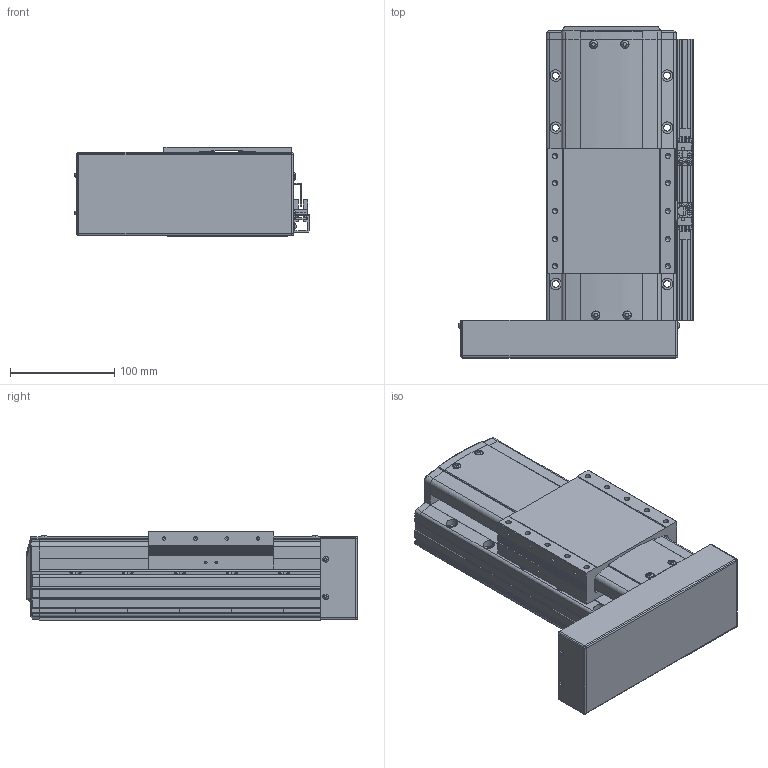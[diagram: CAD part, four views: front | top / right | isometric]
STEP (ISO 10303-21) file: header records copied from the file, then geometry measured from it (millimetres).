
FILE_DESCRIPTION(('STEP AP214'),'1');
FILE_NAME('Z:/Web/3D/PSA125/STP/PSA125-050 (3D)/PSA125ㅁㅁ-050PL+2SR.stp','2014-06-18T08:50:35',(' '),(' '),'Spatial InterOp 3D',' ',' ');
FILE_SCHEMA(('automotive_design'));
Length unit declared in the file: millimetre
Products named in the file (37): 스크루 : Round - M4.0 x 10.0; RRCV-PA120; SLIDE; BASE; FRCV-PA120-1(기준 뿔 제거); RR1500; 스크루 : Round - M4.0 x 6.0; 너트 : Square - M10.0 x 220.7419; BTCV - 60A; 스크루 : Round - M3.0 x 6.0; EE-SX674; SBK-SX674-352; M3.0 x 6.0; SRL-16x17-380L; SGD-PA95; 스크루 : Round - M3.0 x 8.0
Bounding box: 225.06 x 318.6 x 86 mm (x, y, z)
Volume: 3155806.5 mm3; surface area: 356443.4 mm2
Topology: 37 solids, 37 shells, 2236 faces, 5961 edges, 3832 vertices
Faces by surface type: plane 1310, cylinder 610, cone 200, sphere 60, bspline 31, torus 25
Entity records: 89708 total; most frequent: CARTESIAN_POINT 14842, DIRECTION 11885, ORIENTED_EDGE 11710, EDGE_CURVE 5855, LINE 4005, VECTOR 4005, AXIS2_PLACEMENT_3D 3940, VERTEX_POINT 3832
